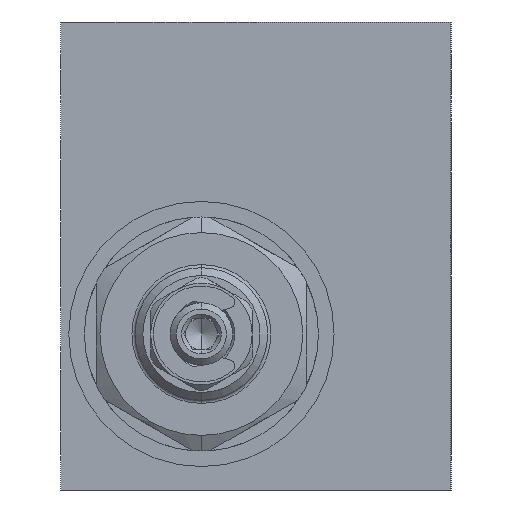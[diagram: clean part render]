
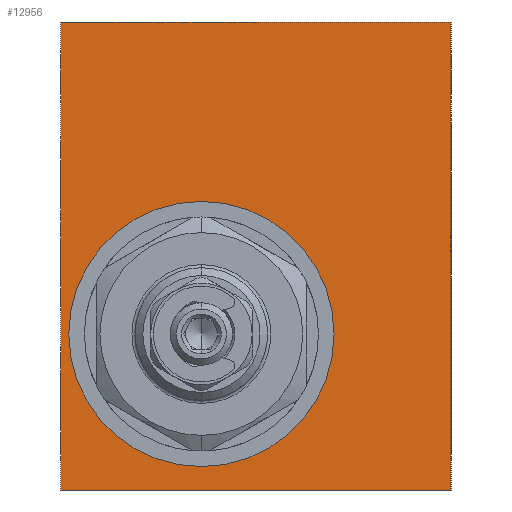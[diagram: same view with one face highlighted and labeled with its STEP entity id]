
A CAD part, left-side view. The second image highlights one B-rep face of the part: STEP entity #12956.
In plain terms, the highlighted planar face has unit normal (-1, 0, 0).
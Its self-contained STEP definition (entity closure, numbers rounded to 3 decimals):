
#658 = AXIS2_PLACEMENT_3D ( 'NONE', #1774, #8966, #2792 ) ;
#806 = AXIS2_PLACEMENT_3D ( 'NONE', #11285, #5164, #12322 ) ;
#999 = VERTEX_POINT ( 'NONE', #10783 ) ;
#1041 = ORIENTED_EDGE ( 'NONE', *, *, #13069, .F. ) ;
#1675 = VECTOR ( 'NONE', #4926, 1000. ) ;
#1774 = CARTESIAN_POINT ( 'NONE',  ( 0., 7., -10. ) ) ;
#1942 = DIRECTION ( 'NONE',  ( 0., 0., -1. ) ) ;
#2057 = VECTOR ( 'NONE', #5343, 1000. ) ;
#2085 = CARTESIAN_POINT ( 'NONE',  ( 0., -25., 30. ) ) ;
#2743 = EDGE_CURVE ( 'NONE', #5328, #10051, #9473, .T. ) ;
#2792 = DIRECTION ( 'NONE',  ( 0., 0., 1. ) ) ;
#3262 = ORIENTED_EDGE ( 'NONE', *, *, #2743, .F. ) ;
#3925 = CARTESIAN_POINT ( 'NONE',  ( 0., 7., 7. ) ) ;
#4241 = CARTESIAN_POINT ( 'NONE',  ( 0., -25., -30. ) ) ;
#4417 = CIRCLE ( 'NONE', #658, 17. ) ;
#4420 = ORIENTED_EDGE ( 'NONE', *, *, #6290, .F. ) ;
#4540 = FACE_BOUND ( 'NONE', #8309, .T. ) ;
#4802 = LINE ( 'NONE', #4241, #2057 ) ;
#4909 = DIRECTION ( 'NONE',  ( -1., 0., 0. ) ) ;
#4926 = DIRECTION ( 'NONE',  ( 0., 0., 1. ) ) ;
#5119 = CARTESIAN_POINT ( 'NONE',  ( 0., 25., 30. ) ) ;
#5161 = VERTEX_POINT ( 'NONE', #7934 ) ;
#5164 = DIRECTION ( 'NONE',  ( -1., 0., 0. ) ) ;
#5328 = VERTEX_POINT ( 'NONE', #5119 ) ;
#5343 = DIRECTION ( 'NONE',  ( 0., 1., 0. ) ) ;
#6290 = EDGE_CURVE ( 'NONE', #6883, #999, #4802, .T. ) ;
#6751 = VECTOR ( 'NONE', #12443, 1000. ) ;
#6883 = VERTEX_POINT ( 'NONE', #12683 ) ;
#7046 = EDGE_LOOP ( 'NONE', ( #4420, #7169, #3262, #8445 ) ) ;
#7169 = ORIENTED_EDGE ( 'NONE', *, *, #10776, .F. ) ;
#7283 = CIRCLE ( 'NONE', #806, 17. ) ;
#7934 = CARTESIAN_POINT ( 'NONE',  ( 0., 7., -27. ) ) ;
#8309 = EDGE_LOOP ( 'NONE', ( #11301, #1041 ) ) ;
#8445 = ORIENTED_EDGE ( 'NONE', *, *, #10015, .F. ) ;
#8966 = DIRECTION ( 'NONE',  ( -1., 0., 0. ) ) ;
#9135 = CARTESIAN_POINT ( 'NONE',  ( 0., -25., 30. ) ) ;
#9473 = LINE ( 'NONE', #12493, #6751 ) ;
#9505 = EDGE_CURVE ( 'NONE', #11804, #5161, #4417, .T. ) ;
#9990 = FACE_OUTER_BOUND ( 'NONE', #7046, .T. ) ;
#10015 = EDGE_CURVE ( 'NONE', #999, #5328, #12585, .T. ) ;
#10051 = VERTEX_POINT ( 'NONE', #2085 ) ;
#10776 = EDGE_CURVE ( 'NONE', #10051, #6883, #12877, .T. ) ;
#10783 = CARTESIAN_POINT ( 'NONE',  ( 0., 25., -30. ) ) ;
#11025 = CARTESIAN_POINT ( 'NONE',  ( 0., 25., -30. ) ) ;
#11049 = CARTESIAN_POINT ( 'NONE',  ( 0., 25., 30. ) ) ;
#11285 = CARTESIAN_POINT ( 'NONE',  ( 0., 7., -10. ) ) ;
#11301 = ORIENTED_EDGE ( 'NONE', *, *, #9505, .F. ) ;
#11600 = AXIS2_PLACEMENT_3D ( 'NONE', #11025, #4909, #12055 ) ;
#11804 = VERTEX_POINT ( 'NONE', #3925 ) ;
#12006 = PLANE ( 'NONE',  #11600 ) ;
#12055 = DIRECTION ( 'NONE',  ( 0., 0., 1. ) ) ;
#12322 = DIRECTION ( 'NONE',  ( 0., 0., 1. ) ) ;
#12443 = DIRECTION ( 'NONE',  ( 0., -1., 0. ) ) ;
#12493 = CARTESIAN_POINT ( 'NONE',  ( 0., -25., 30. ) ) ;
#12554 = VECTOR ( 'NONE', #1942, 1000. ) ;
#12585 = LINE ( 'NONE', #11049, #1675 ) ;
#12683 = CARTESIAN_POINT ( 'NONE',  ( 0., -25., -30. ) ) ;
#12877 = LINE ( 'NONE', #9135, #12554 ) ;
#12956 = ADVANCED_FACE ( 'NONE', ( #4540, #9990 ), #12006, .T. ) ;
#13069 = EDGE_CURVE ( 'NONE', #5161, #11804, #7283, .T. ) ;
